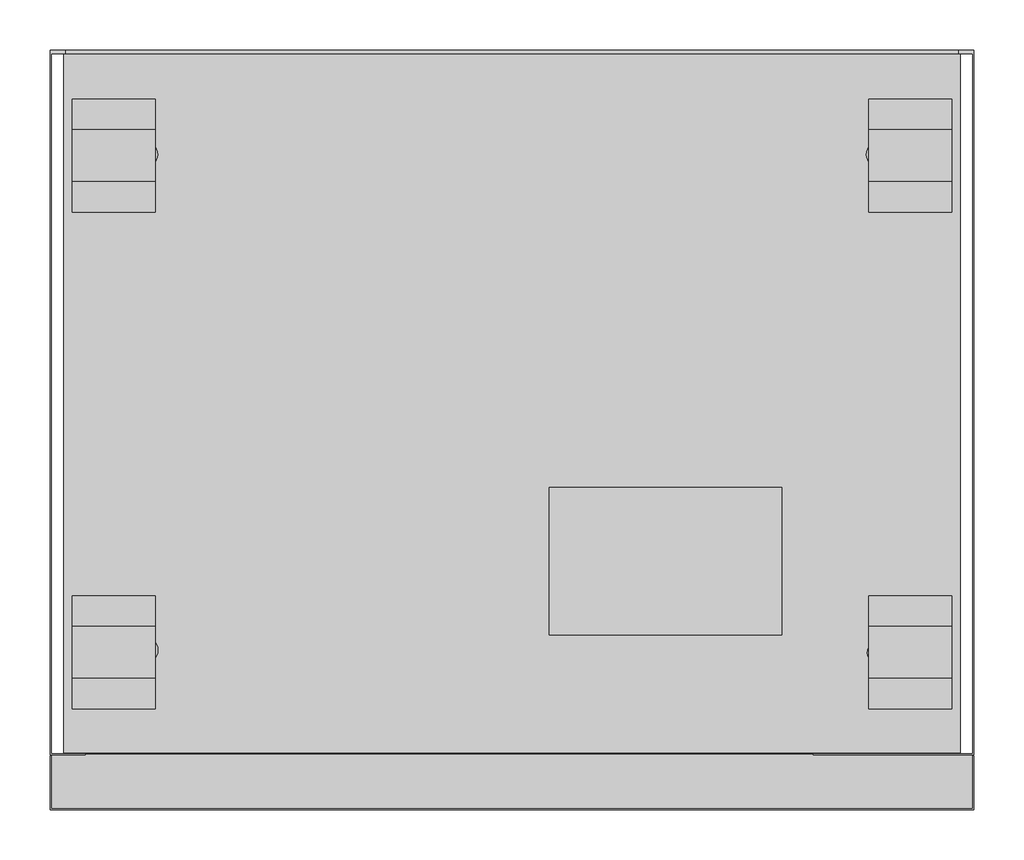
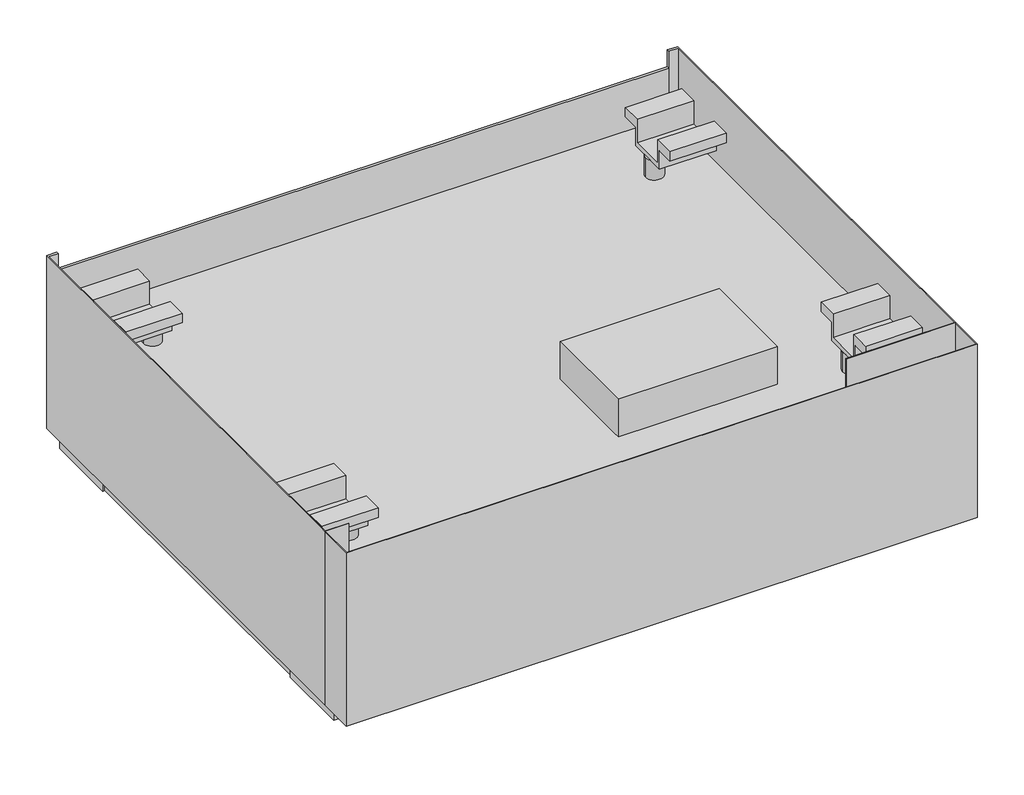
# Not in any storey: 1 proxy.
"""IFC4 building model written with IfcOpenShell, lengths in millimetres."""

from ifc_helpers import new_model, si_unit, origin, place, context, project, spatial, transform, mapped, element, save
from components import specialty_equipment_73939d6c

model = new_model("IFC4")

# Units and contexts
model_context = context("Model", 3, world=origin())
ifc_project = project(units=[si_unit("LENGTHUNIT", "METRE", prefix="MILLI")], contexts=[model_context])

# Site, building
site = spatial("IfcSite", under=ifc_project)
building = spatial("IfcBuilding", under=site)

# Proxy
placement = place(None, origin())
specialty_equipment_shape = specialty_equipment_73939d6c(model_context)
element("IfcBuildingElementProxy", 1, Name="11918210_EU_APWM041_SST : 59510041_EU_11918210_APWM041_SST", ObjectType="11918210_EU_APWM041_SST : 59510041_EU_11918210_APWM041_SST", at=placement, inside=building, context=model_context, shape_type="MappedRepresentation", body=[
    mapped(specialty_equipment_shape, transform((0.0, 0.0, 0.0), x_axis=(1.0, 0.0, 0.0), y_axis=(0.0, 1.0, 0.0), z_axis=(0.0, 0.0, 1.0))),
])

save(model, "model.ifc")
